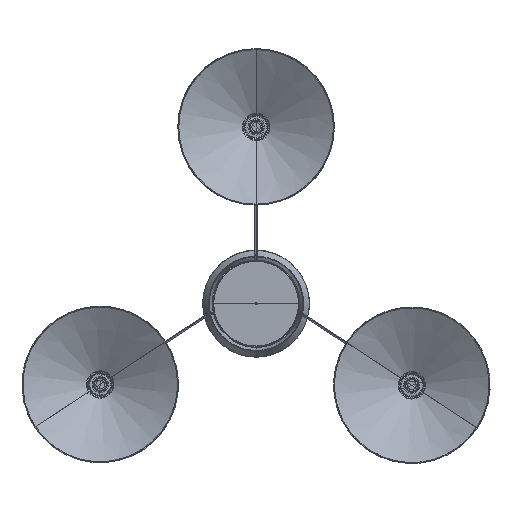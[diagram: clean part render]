
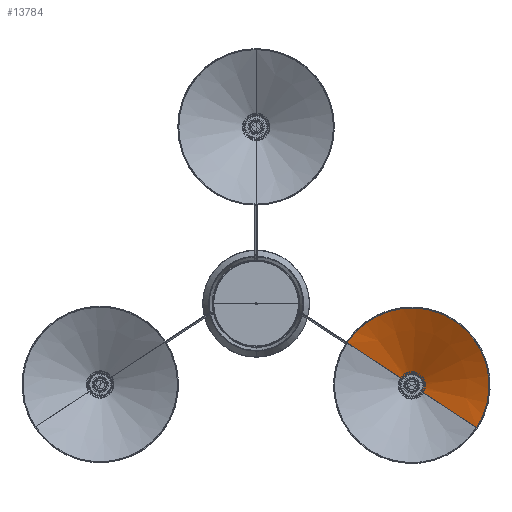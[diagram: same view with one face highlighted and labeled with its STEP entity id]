
A CAD part, top view. The second image highlights one B-rep face of the part: STEP entity #13784.
In plain terms, the highlighted conical face has half-angle 60 degrees and reference radius 180.744 mm.
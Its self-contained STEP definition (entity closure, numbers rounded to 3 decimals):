
#195=CONICAL_SURFACE('',#15260,180.744,1.047);
#848=B_SPLINE_CURVE_WITH_KNOTS('',3,(#31107,#31108,#31109,#31110),
 .UNSPECIFIED.,.F.,.F.,(4,4),(0.8,1.),.UNSPECIFIED.);
#849=B_SPLINE_CURVE_WITH_KNOTS('',3,(#31112,#31113,#31114,#31115,#31116,
#31117),.UNSPECIFIED.,.F.,.F.,(4,1,1,4),(0.2,0.4,0.6,0.8),.UNSPECIFIED.);
#850=B_SPLINE_CURVE_WITH_KNOTS('',3,(#31118,#31119,#31120,#31121),
 .UNSPECIFIED.,.F.,.F.,(4,4),(0.,0.2),.UNSPECIFIED.);
#2141=FACE_OUTER_BOUND('',#3082,.T.);
#3082=EDGE_LOOP('',(#12039,#12040,#12041,#12042,#12043,#12044));
#3878=LINE('',#31124,#4635);
#3879=LINE('',#31127,#4636);
#4635=VECTOR('',#18708,304.8);
#4636=VECTOR('',#18711,304.8);
#5301=CIRCLE('',#15261,197.387);
#6380=VERTEX_POINT('',#30983);
#6383=VERTEX_POINT('',#31048);
#6384=VERTEX_POINT('',#31106);
#6385=VERTEX_POINT('',#31111);
#6386=VERTEX_POINT('',#31123);
#6387=VERTEX_POINT('',#31125);
#8290=EDGE_CURVE('',#6384,#6383,#848,.T.);
#8291=EDGE_CURVE('',#6385,#6384,#849,.T.);
#8292=EDGE_CURVE('',#6380,#6385,#850,.T.);
#8293=EDGE_CURVE('',#6386,#6380,#3878,.T.);
#8295=EDGE_CURVE('',#6383,#6387,#3879,.T.);
#8296=EDGE_CURVE('',#6386,#6387,#5301,.T.);
#12039=ORIENTED_EDGE('',*,*,#8292,.T.);
#12040=ORIENTED_EDGE('',*,*,#8291,.T.);
#12041=ORIENTED_EDGE('',*,*,#8290,.T.);
#12042=ORIENTED_EDGE('',*,*,#8295,.T.);
#12043=ORIENTED_EDGE('',*,*,#8296,.F.);
#12044=ORIENTED_EDGE('',*,*,#8293,.T.);
#13784=ADVANCED_FACE('',(#2141),#195,.F.);
#15260=AXIS2_PLACEMENT_3D('',#31128,#18712,#18713);
#15261=AXIS2_PLACEMENT_3D('',#31129,#18714,#18715);
#18708=DIRECTION('',(-0.289,0.816,0.5));
#18711=DIRECTION('',(-0.289,0.816,-0.5));
#18712=DIRECTION('center_axis',(0.,0.,
-1.));
#18713=DIRECTION('ref_axis',(0.284,0.959,0.));
#18714=DIRECTION('center_axis',(0.,0.,
1.));
#18715=DIRECTION('ref_axis',(0.284,0.959,0.));
#30983=CARTESIAN_POINT('',(-99.488,406.945,580.619));
#31048=CARTESIAN_POINT('',(-120.157,465.313,580.619));
#31106=CARTESIAN_POINT('',(-101.029,465.814,580.619));
#31107=CARTESIAN_POINT('Ctrl Pts',(-101.029,465.814,580.619));
#31108=CARTESIAN_POINT('Ctrl Pts',(-107.216,467.726,580.619));
#31109=CARTESIAN_POINT('Ctrl Pts',(-113.963,467.749,580.619));
#31110=CARTESIAN_POINT('Ctrl Pts',(-120.157,465.313,580.619));
#31111=CARTESIAN_POINT('',(-84.308,418.593,580.619));
#31112=CARTESIAN_POINT('Ctrl Pts',(-84.308,418.593,580.619));
#31113=CARTESIAN_POINT('Ctrl Pts',(-80.703,423.973,580.619));
#31114=CARTESIAN_POINT('Ctrl Pts',(-76.742,436.966,580.619));
#31115=CARTESIAN_POINT('Ctrl Pts',(-83.588,456.297,580.619));
#31116=CARTESIAN_POINT('Ctrl Pts',(-94.842,463.901,580.619));
#31117=CARTESIAN_POINT('Ctrl Pts',(-101.029,465.814,580.619));
#31118=CARTESIAN_POINT('Ctrl Pts',(-99.488,406.945,580.619));
#31119=CARTESIAN_POINT('Ctrl Pts',(-93.141,408.95,580.619));
#31120=CARTESIAN_POINT('Ctrl Pts',(-87.912,413.213,580.619));
#31121=CARTESIAN_POINT('Ctrl Pts',(-84.308,418.593,580.619));
#31123=CARTESIAN_POINT('',(-43.933,250.064,484.533));
#31124=CARTESIAN_POINT('',(-43.933,250.064,484.533));
#31125=CARTESIAN_POINT('',(-175.712,622.194,484.533));
#31127=CARTESIAN_POINT('',(-120.157,465.313,580.619));
#31128=CARTESIAN_POINT('Origin',(-109.822,436.129,494.141));
#31129=CARTESIAN_POINT('Origin',(-109.822,436.129,484.533));
